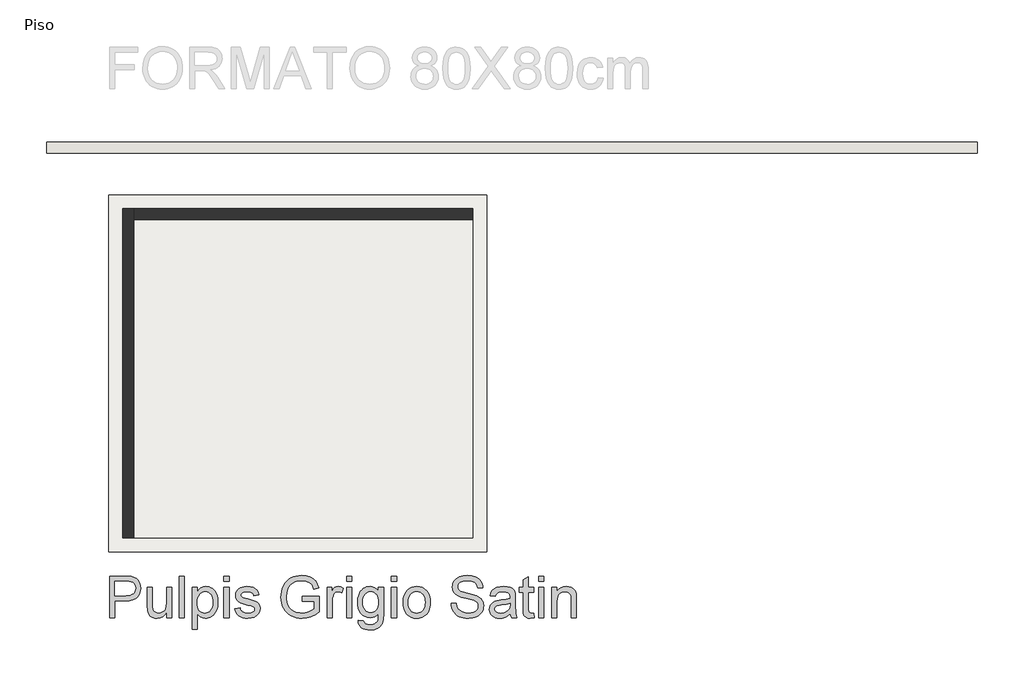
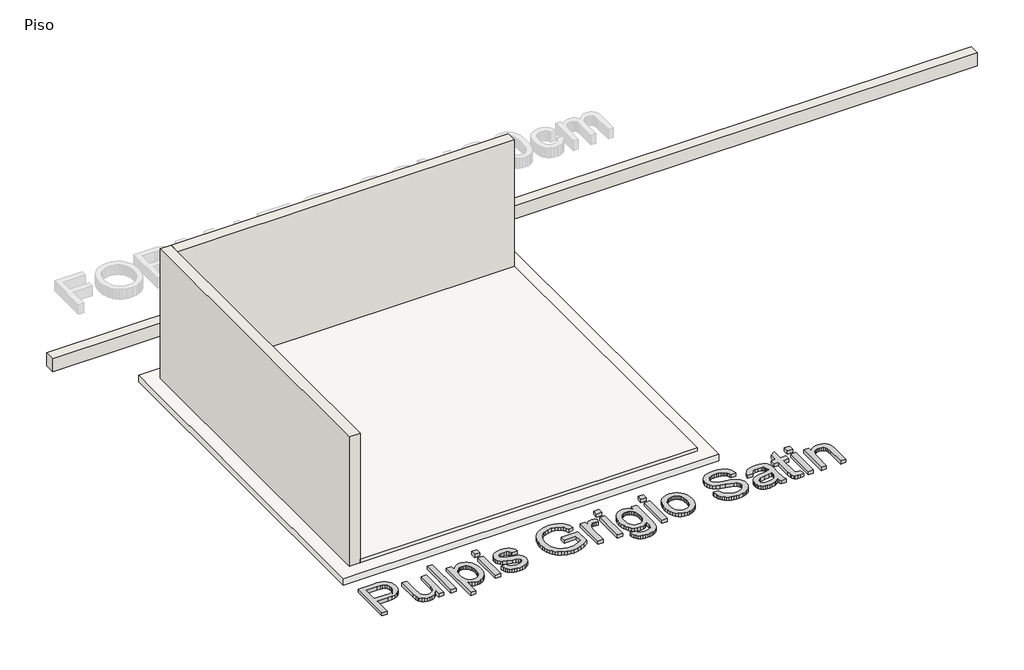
# One storey, part 1 of 2: 3 walls, 2 slabs, 1 proxy.
"""IFC4 building model written with IfcOpenShell, lengths in millimetres."""

from ifc_helpers import new_model, si_unit, frame, origin, origin_with_axes, place, context, project, spatial, polyline, outline, extrude, faceted_brep, element, save

model = new_model("IFC4")

# Units and contexts
model_context = context("Model", 3, world=origin())
ifc_project = project(units=[si_unit("LENGTHUNIT", "METRE", prefix="MILLI")], contexts=[model_context])

# Site, building, storey
site = spatial("IfcSite", under=ifc_project)
building = spatial("IfcBuilding", under=site)
storey = spatial("IfcBuildingStorey", under=building, Name="Piso", Elevation=0.0)

# Proxy
placement = place(None, origin())
element("IfcBuildingElementProxy", 1, Name="600mm Arial", ObjectType="600mm Arial", at=placement, inside=storey, context=model_context, shape_type="SweptSolid", body=[
    extrude(outline(polyline([(92600.1122486, -4974.1967147), (92600.1122486, -4371.4588538), (92823.4901961, -4371.4588538), (92875.5087102, -4372.8935936), (92913.5477085, -4377.197813), (92953.7020283, -4387.9215731), (92986.7562256, -4405.3775738), (93013.3724879, -4430.3567613), (93034.213003, -4463.6500818), (93047.677484, -4502.9214848), (93052.1656443, -4545.8349195), (93049.1352164, -4582.8346512), (93040.0439326, -4616.8729328), (93024.8917929, -4647.9497644), (93003.6787974, -4676.0651458), (92974.5563389, -4699.3704702), (92935.6758105, -4716.0171305), (92887.0372123, -4726.0051267), (92828.640544, -4729.3344587), (92675.4544813, -4729.3344587), (92675.4544813, -4974.1967147), (92600.1122486, -4974.1967147)]), holes=[polyline([(92675.4544813, -4653.9922261), (92833.055128, -4653.9922261), (92869.2915045, -4652.2631808), (92899.8624983, -4647.0760446), (92924.7681094, -4638.4308177), (92944.0083377, -4626.3275001), (92958.3649326, -4611.0879884), (92968.6196432, -4593.0341795), (92974.7724696, -4572.1660734), (92976.8234117, -4548.4836699), (92971.9857635, -4514.6385264), (92957.4728188, -4486.0908835), (92935.0871994, -4464.606575), (92906.631527, -4451.9514344), (92877.5688494, -4448.0886734), (92831.2892944, -4446.8010864), (92675.4544813, -4446.8010864), (92675.4544813, -4653.9922261)])]), origin_with_axes(), (0.0, 0.0, 1.0), 50.0),
    extrude(outline(polyline([(93428.8768074, -4974.1967147), (93428.8768074, -4898.1187181), (93401.6167515, -4935.52312), (93369.8685354, -4962.2405499), (93333.6321588, -4978.2710078), (93292.907622, -4983.6144938), (93256.2113929, -4979.8620975), (93222.0535497, -4968.6049084), (93193.3955423, -4951.6823366), (93173.1988207, -4930.9337921), (93159.605581, -4905.7338754), (93150.758019, -4875.4571872), (93146.3434351, -4805.4124553), (93146.3434351, -4531.5610981), (93221.6856677, -4531.5610981), (93221.6856677, -4769.948631), (93222.8261019, -4817.6261376), (93226.2474044, -4846.7623916), (93237.228682, -4872.3853726), (93256.045846, -4891.8647242), (93281.4480978, -4904.1703769), (93312.1846385, -4908.2722612), (93344.6870128, -4904.0784064), (93375.0924597, -4891.4968422), (93400.1636177, -4871.6863968), (93416.6631251, -4845.8058984), (93425.8233868, -4810.3604682), (93428.8768074, -4761.8552271), (93428.8768074, -4531.5610981), (93504.21904, -4531.5610981), (93504.21904, -4974.1967147), (93428.8768074, -4974.1967147)])), origin_with_axes(), (0.0, 0.0, 1.0), 50.0),
    extrude(outline(polyline([(93607.8146098, -4974.1967147), (93607.8146098, -4371.4588538), (93683.1568424, -4371.4588538), (93683.1568424, -4974.1967147), (93607.8146098, -4974.1967147)])), origin_with_axes(), (0.0, 0.0, 1.0), 50.0),
    extrude(outline(polyline([(93796.1701914, -5143.7167381), (93796.1701914, -4531.5610981), (93871.512424, -4531.5610981), (93871.512424, -4605.4318028), (93896.0869413, -4568.9930911), (93923.6045145, -4542.96544), (93955.6838245, -4527.3488493), (93993.943552, -4522.1433191), (94020.2195235, -4523.9643349), (94044.8952083, -4529.4273826), (94067.9706064, -4538.5324619), (94089.4457179, -4551.2795731), (94108.8514932, -4567.3376222), (94125.7188826, -4586.3755154), (94140.0478864, -4608.3932528), (94151.8385043, -4633.3908344), (94167.6206419, -4688.9042275), (94172.8813544, -4749.4943921), (94166.9400602, -4813.9289235), (94159.5134424, -4843.5940079), (94149.1161775, -4871.5576381), (94135.8908198, -4897.0886485), (94119.9799235, -4919.4558738), (94101.3834887, -4938.659314), (94080.1015152, -4954.698969), (94057.1778684, -4967.3495111), (94033.6564133, -4976.3856126), (94009.53715, -4981.8072735), (93984.8200785, -4983.6144938), (93950.1839886, -4978.7768456), (93919.2635069, -4964.2639009), (93892.7943974, -4942.356528), (93871.512424, -4915.3355955), (93871.512424, -5143.7167381), (93796.1701914, -5143.7167381)]), holes=[polyline([(93871.512424, -4756.4105736), (93873.5495705, -4792.7205265), (93879.6610102, -4823.9537079), (93889.8467429, -4850.1101178), (93904.1067687, -4871.1897561), (93921.2730623, -4887.4133521), (93940.1775984, -4899.0016349), (93960.8203768, -4905.9546046), (93983.2013977, -4908.2722612), (94005.9043153, -4905.8718312), (94026.9241728, -4898.6705411), (94046.2609702, -4886.668391), (94063.9147075, -4869.8653809), (94078.6253887, -4848.0223874), (94089.1330182, -4820.9002873), (94095.4375959, -4788.4990806), (94097.5391218, -4750.8187673), (94095.4881797, -4714.821514), (94089.3353533, -4683.6435149), (94079.0806427, -4657.28477), (94064.7240478, -4635.7452792), (94047.5163675, -4619.0066484), (94028.7084005, -4607.0504835), (94008.3001468, -4599.8767846), (93986.2916065, -4597.4855517), (93964.352044, -4600.028536), (93943.7092655, -4607.6574888), (93924.3632711, -4620.3724103), (93906.3140607, -4638.1733003), (93891.0883446, -4660.8210357), (93880.2128332, -4688.076493), (93873.6875263, -4719.9396723), (93871.512424, -4756.4105736)])]), origin_with_axes(), (0.0, 0.0, 1.0), 50.0),
    extrude(outline(polyline([(94257.6413661, -4446.8010864), (94257.6413661, -4371.4588538), (94332.9835987, -4371.4588538), (94332.9835987, -4446.8010864), (94257.6413661, -4446.8010864)])), origin_with_axes(), (0.0, 0.0, 1.0), 50.0),
    extrude(outline(polyline([(94257.6413661, -4974.1967147), (94257.6413661, -4531.5610981), (94332.9835987, -4531.5610981), (94332.9835987, -4974.1967147), (94257.6413661, -4974.1967147)])), origin_with_axes(), (0.0, 0.0, 1.0), 50.0),
    extrude(outline(polyline([(94417.7436104, -4842.3478077), (94493.085843, -4832.9300286), (94497.6383827, -4850.1101178), (94504.9684315, -4865.1564914), (94515.0759893, -4878.0691494), (94527.9610562, -4888.8480918), (94543.6604203, -4897.3461659), (94562.2108699, -4903.4162189), (94607.8650255, -4908.2722612), (94652.9673581, -4903.8208891), (94670.4969352, -4898.2566739), (94684.6787861, -4890.4667726), (94703.4407679, -4871.1161797), (94708.1312633, -4860.2820549), (94709.6947618, -4848.675378), (94708.1220663, -4838.5034408), (94703.4039797, -4829.4719378), (94684.5316333, -4814.8302344), (94656.3150843, -4805.2653025), (94606.9821087, -4793.3459259), (94538.2249638, -4773.4619041), (94493.5273014, -4756.48415), (94464.8141117, -4737.9612915), (94444.0103849, -4713.4419565), (94431.3736383, -4684.4896435), (94427.1613895, -4652.6678509), (94430.5459038, -4623.4764146), (94440.6994469, -4596.5290585), (94456.7023137, -4572.8926403), (94477.6347992, -4553.6340178), (94498.4385261, -4541.5123061), (94525.533035, -4531.3403689), (94556.8581869, -4524.4425815), (94590.3538425, -4522.1433191), (94639.3925125, -4525.8405331), (94682.0300357, -4536.9321753), (94716.3166377, -4554.3329936), (94740.3025438, -4576.9577363), (94756.195046, -4606.4802665), (94766.2014362, -4644.5744471), (94690.8592036, -4653.9922261), (94681.3494541, -4630.2822315), (94662.53229, -4612.4215607), (94634.2237705, -4601.2195539), (94596.2399545, -4597.4855517), (94552.9770318, -4601.054007), (94524.1350834, -4611.7593731), (94507.9114874, -4627.2104169), (94502.5036221, -4645.0159054), (94504.7477023, -4656.6041883), (94511.4799428, -4666.9416724), (94522.9946492, -4676.1755104), (94539.5861272, -4683.5699385), (94604.4805112, -4699.6095935), (94715.0658389, -4735.0734179), (94744.2756693, -4752.0327778), (94766.4221654, -4775.2461317), (94780.3832872, -4804.787056), (94785.0369944, -4840.7291269), (94779.5739468, -4877.8852084), (94763.1848039, -4912.8339979), (94736.4949651, -4942.8347746), (94700.1298299, -4965.1468176), (94656.2047197, -4978.9975748), (94606.8349559, -4983.6144938), (94566.285163, -4981.3888077), (94530.8673239, -4974.7117495), (94500.5814387, -4963.5833192), (94475.4275073, -4948.0035167), (94454.8812978, -4928.0459184), (94438.4185785, -4903.7841009), (94426.0393494, -4875.2180639), (94417.7436104, -4842.3478077)])), origin_with_axes(), (0.0, 0.0, 1.0), 50.0),
    extrude(outline(polyline([(95397.1926344, -4738.7522378), (95397.1926344, -4663.4100052), (95642.0548904, -4663.4100052), (95642.0548904, -4888.7009391), (95582.5499776, -4930.0876635), (95521.1688667, -4959.7757405), (95458.0587105, -4977.6548055), (95393.3666616, -4983.6144938), (95350.0899434, -4981.2462535), (95308.8457732, -4974.1415324), (95269.6341511, -4962.3003307), (95232.4550769, -4945.7226483), (95198.5087658, -4924.6568056), (95168.9954328, -4899.3511228), (95143.9150777, -4869.8056001), (95123.2677008, -4836.0202373), (95107.1406738, -4799.075688), (95095.6213688, -4760.0526053), (95088.7097858, -4718.9509894), (95086.4059248, -4675.7708402), (95088.7005888, -4632.5860925), (95095.5845806, -4590.8820699), (95107.0579004, -4550.6587722), (95123.120548, -4511.9161996), (95143.4874149, -4476.3558062), (95167.8733927, -4445.6790464), (95196.2784812, -4419.88592), (95228.7026806, -4398.9764271), (95264.4424164, -4382.8172104), (95302.7941144, -4371.2749128), (95343.7577746, -4364.3495343), (95387.3333969, -4362.0410748), (95449.3950895, -4367.3937578), (95505.2027882, -4383.4518069), (95530.1221948, -4395.2056366), (95552.199713, -4409.0563937), (95571.4353429, -4425.0040782), (95587.8290843, -4443.0486901), (95614.1878292, -4487.0657708), (95633.3728753, -4542.7447108), (95563.9167546, -4562.3160329), (95548.4105285, -4522.6031716), (95529.5565762, -4492.639183), (95504.614177, -4470.0512285), (95470.8426098, -4452.4664692), (95430.5779254, -4441.1540978), (95386.1561745, -4437.3833074), (95334.1560545, -4441.4484034), (95289.6975154, -4453.6436916), (95252.9461041, -4472.4424615), (95224.0673674, -4496.318003), (95201.9024772, -4524.0379113), (95185.2926051, -4554.3697818), (95167.6342694, -4611.2443383), (95161.7481575, -4672.6806315), (95163.5185896, -4710.301164), (95168.8298859, -4744.7303202), (95177.6820464, -4775.9681002), (95190.0750711, -4804.0145038), (95205.8480116, -4828.763765), (95224.8399196, -4850.1101178), (95247.0507951, -4868.0535621), (95272.480638, -4882.5940979), (95299.9384304, -4893.8282944), (95328.2331544, -4901.8527204), (95357.3648099, -4906.667376), (95387.3333969, -4908.2722612), (95439.5174579, -4903.434613), (95490.4139319, -4888.9216682), (95534.6149537, -4868.9272818), (95566.7126577, -4847.6453084), (95566.7126577, -4738.7522378), (95397.1926344, -4738.7522378)])), origin_with_axes(), (0.0, 0.0, 1.0), 50.0),
    extrude(outline(polyline([(95755.0682393, -4974.1967147), (95755.0682393, -4531.5610981), (95820.9926928, -4531.5610981), (95820.9926928, -4597.0440933), (95845.3464809, -4559.0786714), (95867.7872826, -4536.7114461), (95890.3016607, -4525.7853508), (95914.876178, -4522.1433191), (95952.4001415, -4527.9558546), (95990.5127162, -4545.3934612), (95965.3495877, -4612.9365955), (95938.8620841, -4601.3483126), (95912.3745804, -4597.4855517), (95889.8785964, -4601.2011598), (95869.7738454, -4612.3479843), (95853.5318553, -4630.0798964), (95842.6241541, -4653.5507677), (95833.4638925, -4695.636468), (95830.4104719, -4741.548141), (95830.4104719, -4974.1967147), (95755.0682393, -4974.1967147)])), origin_with_axes(), (0.0, 0.0, 1.0), 50.0),
    extrude(outline(polyline([(96037.6016116, -4446.8010864), (96037.6016116, -4371.4588538), (96112.9438442, -4371.4588538), (96112.9438442, -4446.8010864), (96037.6016116, -4446.8010864)])), origin_with_axes(), (0.0, 0.0, 1.0), 50.0),
    extrude(outline(polyline([(96037.6016116, -4974.1967147), (96037.6016116, -4531.5610981), (96112.9438442, -4531.5610981), (96112.9438442, -4974.1967147), (96037.6016116, -4974.1967147)])), origin_with_axes(), (0.0, 0.0, 1.0), 50.0),
    extrude(outline(polyline([(96207.121635, -5011.867831), (96282.4638676, -5021.2856101), (96290.7780007, -5044.8300578), (96306.891232, -5061.0168656), (96338.5658718, -5073.5984298), (96380.0261727, -5077.7922846), (96424.2455885, -5073.0466068), (96442.1062594, -5067.1145097), (96457.1342389, -5058.8095736), (96479.9429226, -5036.0008899), (96493.9224384, -5005.5402607), (96498.0059285, -4973.1298569), (96499.0727863, -4917.6900403), (96474.0016284, -4942.4117103), (96446.0242026, -4960.0700461), (96415.1405091, -4970.6650476), (96381.3505479, -4974.1967147), (96340.0419983, -4970.0856334), (96303.6722646, -4957.7523895), (96272.2413466, -4937.1969831), (96245.7492444, -4908.419414), (96224.7293869, -4873.8936887), (96209.715203, -4836.0938137), (96200.7066927, -4795.019789), (96197.7038559, -4750.6716145), (96203.0933271, -4689.8423266), (96219.2617408, -4633.9058692), (96231.2454968, -4608.6829599), (96245.6388798, -4586.5042741), (96262.44189, -4567.3698118), (96281.6545272, -4551.2795731), (96302.9686903, -4538.5324619), (96326.0762781, -4529.4273826), (96350.9772906, -4523.9643349), (96377.6717279, -4522.1433191), (96412.905626, -4526.2635974), (96444.8837684, -4538.6244324), (96473.6061552, -4559.2258242), (96499.0727863, -4588.0677726), (96499.0727863, -4531.5610981), (96574.4150189, -4531.5610981), (96574.4150189, -4913.7169147), (96569.264671, -5001.9534113), (96562.8267361, -5034.7730838), (96553.8136272, -5060.0603724), (96542.0092137, -5080.4548305), (96527.1973649, -5098.5960114), (96509.3780807, -5114.4839151), (96488.5513613, -5128.1185415), (96464.9287386, -5139.0630309), (96438.721745, -5146.8805233), (96409.9303804, -5151.5710187), (96378.5546447, -5153.1345172), (96341.642285, -5150.9318237), (96308.4547305, -5144.3237434), (96278.9919812, -5133.3102762), (96253.2540371, -5117.891422), (96232.4641059, -5098.0487869), (96217.8453951, -5073.7639767), (96209.3979048, -5045.0369914), (96207.121635, -5011.867831)]), holes=[polyline([(96273.0460885, -4745.5212665), (96275.0556439, -4782.7739171), (96281.0843101, -4814.6278993), (96291.1320871, -4841.0832133), (96305.1989749, -4862.139859), (96322.3008891, -4878.2025066), (96341.4537455, -4889.6758263), (96362.657544, -4896.5598182), (96385.9122846, -4898.8544821), (96408.937099, -4896.5736137), (96430.0397299, -4889.7310086), (96449.2201775, -4878.3266668), (96466.4784416, -4862.3605882), (96480.7384674, -4841.5108761), (96490.9242001, -4815.4556338), (96497.0356398, -4784.1948613), (96499.0727863, -4747.7285585), (96496.975859, -4712.7843675), (96490.6850768, -4682.4111103), (96480.20044, -4656.6087868), (96465.5219484, -4635.3773972), (96447.8912037, -4618.7997148), (96428.5498078, -4606.958513), (96407.4977607, -4599.853792), (96384.7350622, -4597.4855517), (96362.3540413, -4599.8170038), (96341.7112629, -4606.8113602), (96322.8067269, -4618.468621), (96305.6404333, -4634.788786), (96291.3804074, -4655.6982789), (96281.1946747, -4681.1235233), (96275.083235, -4711.0645192), (96273.0460885, -4745.5212665)])]), origin_with_axes(), (0.0, 0.0, 1.0), 50.0),
    extrude(outline(polyline([(96687.4283679, -4446.8010864), (96687.4283679, -4371.4588538), (96762.7706005, -4371.4588538), (96762.7706005, -4446.8010864), (96687.4283679, -4446.8010864)])), origin_with_axes(), (0.0, 0.0, 1.0), 50.0),
    extrude(outline(polyline([(96687.4283679, -4974.1967147), (96687.4283679, -4531.5610981), (96762.7706005, -4531.5610981), (96762.7706005, -4974.1967147), (96687.4283679, -4974.1967147)])), origin_with_axes(), (0.0, 0.0, 1.0), 50.0),
    extrude(outline(polyline([(96856.9483912, -4752.8789064), (96861.0226843, -4695.5536945), (96873.2455636, -4646.1563396), (96893.6170291, -4604.6868417), (96922.1370808, -4571.1452008), (96950.8502705, -4549.7068775), (96982.5433044, -4534.3937895), (97017.2161824, -4525.2059367), (97054.8689046, -4522.1433191), (97096.4349716, -4525.8727228), (97134.0187159, -4537.060934), (97167.6201376, -4555.7079526), (97197.2392368, -4581.8137787), (97221.4136824, -4614.4954954), (97238.6811435, -4652.870186), (97249.0416202, -4696.9378505), (97252.4951124, -4746.6984889), (97250.9684022, -4787.0275526), (97246.3882713, -4822.8132737), (97238.7547199, -4854.0556522), (97228.067748, -4880.754688), (97214.4607127, -4903.8162905), (97198.0669713, -4924.1463693), (97178.8865237, -4941.7449242), (97156.9193701, -4956.6119554), (97133.020836, -4968.4255659), (97108.046247, -4976.8638592), (97081.9956033, -4981.9268352), (97054.8689046, -4983.6144938), (97012.6958324, -4979.8988857), (96974.7626002, -4968.7520612), (96941.069208, -4950.1740204), (96911.6156557, -4924.1647634), (96887.6987275, -4891.1657484), (96870.6152074, -4851.6184339), (96860.3650953, -4805.5228199), (96856.9483912, -4752.8789064)]), holes=[polyline([(96932.2906238, -4752.7317536), (96934.4703247, -4789.2762313), (96941.0094271, -4820.9186814), (96951.9079312, -4847.659104), (96967.165837, -4869.4974989), (96985.7254836, -4886.4614574), (97006.5292105, -4898.5785706), (97029.5770175, -4905.8488386), (97054.8689046, -4908.2722612), (97080.0320331, -4905.835043), (97102.9878696, -4898.5233883), (97123.7364141, -4886.3372972), (97142.2776667, -4869.2767697), (97157.5355724, -4847.2222441), (97168.4340765, -4820.0541588), (97174.973179, -4787.7725137), (97177.1528798, -4750.3773089), (97174.9593834, -4714.9916595), (97168.3788942, -4684.1769438), (97157.4114123, -4657.933162), (97142.0569375, -4636.260314), (97123.4467071, -4619.2963555), (97102.7119581, -4607.1792422), (97079.8526906, -4599.9089743), (97054.8689046, -4597.4855517), (97029.5770175, -4599.8997773), (97006.5292105, -4607.142454), (96985.7254836, -4619.213582), (96967.165837, -4636.1131612), (96951.9079312, -4657.8871768), (96941.0094271, -4684.581614), (96934.4703247, -4716.196473), (96932.2906238, -4752.7317536)])]), origin_with_axes(), (0.0, 0.0, 1.0), 50.0),
    extrude(outline(polyline([(97553.8640429, -4767.005575), (97629.2062755, -4767.005575), (97637.8515024, -4808.8153638), (97653.4864872, -4842.4213841), (97677.8770635, -4869.0928287), (97712.7890648, -4890.0988906), (97755.4633763, -4903.7289186), (97803.1408828, -4908.2722612), (97845.1162185, -4904.8325645), (97881.8676298, -4894.5134746), (97911.6476773, -4878.179514), (97932.7089215, -4856.6952055), (97945.2353035, -4832.0287177), (97949.4107641, -4806.1482193), (97946.2837672, -4780.9299086), (97936.9027763, -4759.1329004), (97917.8464889, -4740.5364655), (97885.6936025, -4724.9198748), (97775.9911916, -4696.1515028), (97703.978291, -4677.1136095), (97657.9010711, -4658.9954213), (97620.3955017, -4633.6483518), (97593.8160276, -4602.9302052), (97577.9787077, -4567.5031691), (97572.699601, -4528.029431), (97574.3320774, -4505.5932278), (97579.2295065, -4483.9019857), (97587.3918882, -4462.9557046), (97598.8192227, -4442.7543845), (97613.3827512, -4424.1211614), (97630.953715, -4407.8791714), (97651.5321141, -4394.0284142), (97675.1179485, -4382.5688901), (97728.129744, -4367.1730286), (97786.8069222, -4362.0410748), (97850.376931, -4367.4121519), (97906.0006887, -4383.5253833), (97930.3360827, -4395.5275334), (97951.6916325, -4410.0496751), (97970.0673381, -4427.0918086), (97985.4631996, -4446.6539336), (97997.7596553, -4468.1658333), (98006.8371436, -4491.0572905), (98012.6956643, -4515.3283051), (98015.3352176, -4540.9788772), (97939.992985, -4540.9788772), (97934.9530017, -4516.9377888), (97926.160622, -4496.0236974), (97913.615846, -4478.2366029), (97897.3186736, -4463.5765054), (97876.9656022, -4452.1169813), (97852.2531292, -4443.9316069), (97823.1812545, -4439.0203822), (97789.7499782, -4437.3833074), (97755.2518441, -4439.0019881), (97725.7752992, -4443.8580305), (97701.3203436, -4451.9514344), (97681.8869772, -4463.2821998), (97667.0797269, -4476.9030307), (97656.5031195, -4491.8666309), (97650.1571551, -4508.1730003), (97648.0418337, -4525.822139), (97649.5409528, -4541.0064684), (97654.0383102, -4554.774452), (97661.5339058, -4567.12609), (97672.0277397, -4578.0613823), (97688.5456413, -4588.4172605), (97714.5548984, -4598.8835033), (97795.0474789, -4620.1470826), (97878.1152334, -4640.3438041), (97928.367914, -4657.9653517), (97971.3181369, -4685.2989839), (97987.9234105, -4701.3662301), (98001.2821254, -4719.0337629), (98011.5506316, -4738.2096119), (98018.8852789, -4758.8018066), (98024.7529967, -4804.235233), (98023.0653381, -4827.8026733), (98018.0023621, -4850.6803349), (98009.5640688, -4872.8682177), (97997.7504583, -4894.3663218), (97982.768464, -4914.3423141), (97964.8250197, -4931.9638617), (97943.9201253, -4947.2309645), (97920.0537809, -4960.1436225), (97893.9203637, -4970.4121287), (97866.2142509, -4977.746776), (97806.0839388, -4983.6144938), (97767.5437013, -4982.0326012), (97732.2684165, -4977.2869235), (97700.2580844, -4969.3774606), (97671.512705, -4958.3042125), (97645.8575343, -4944.0487852), (97623.1178285, -4926.5927846), (97603.2935875, -4905.9362105), (97586.3848113, -4882.0790631), (97572.7639804, -4855.7938946), (97562.8035754, -4827.853257), (97556.5035962, -4798.2571505), (97553.8640429, -4767.005575)])), origin_with_axes(), (0.0, 0.0, 1.0), 50.0),
    extrude(outline(polyline([(98410.8819389, -4917.6900403), (98374.8846856, -4948.5553397), (98337.8205746, -4968.7520612), (98298.8434772, -4979.8988857), (98257.1072649, -4983.6144938), (98223.5610254, -4981.3796107), (98194.1442614, -4974.6749613), (98168.8569728, -4963.5005457), (98147.6991595, -4947.8563639), (98130.9927184, -4928.7356972), (98119.0595462, -4907.131827), (98111.8996429, -4883.0447534), (98109.5130084, -4856.4744763), (98113.118252, -4825.2412949), (98123.9339826, -4796.8775931), (98140.6174311, -4772.5973814), (98161.8258281, -4753.6146704), (98186.7498333, -4739.2672726), (98214.5801062, -4728.8930003), (98279.7687958, -4717.5622349), (98356.8032856, -4705.6428583), (98410.4404805, -4691.6633424), (98410.8819389, -4674.8879235), (98405.6948027, -4641.2635091), (98399.2108826, -4628.8107036), (98390.1333943, -4619.2641658), (98374.4432272, -4609.7360221), (98355.3317576, -4602.9302052), (98306.8449106, -4597.4855517), (98261.9633072, -4601.1091893), (98230.6197612, -4611.9801023), (98209.2458173, -4632.0848533), (98194.2730201, -4663.4100052), (98118.9307875, -4653.9922261), (98132.0089924, -4612.7894427), (98151.5251323, -4580.4158271), (98179.3002229, -4555.6573688), (98217.1552802, -4537.3000573), (98263.4532293, -4525.9325036), (98316.5569953, -4522.1433191), (98367.4902575, -4525.4910452), (98407.8653065, -4535.5342237), (98438.3075416, -4550.6357796), (98459.4423622, -4569.158638), (98473.4586662, -4592.0592922), (98482.5453515, -4620.2942354), (98486.2241715, -4686.2186889), (98486.2241715, -4779.9550213), (98490.0501442, -4910.8474352), (98495.7155269, -4943.2026566), (98505.0597296, -4974.1967147), (98429.717497, -4974.1967147), (98417.6509676, -4948.0035167), (98410.8819389, -4917.6900403)]), holes=[polyline([(98410.8819389, -4767.005575), (98360.2613763, -4779.5503511), (98289.3337277, -4790.1085643), (98224.5129201, -4802.3222466), (98207.6455306, -4810.6731679), (98195.1559369, -4822.1878743), (98187.430415, -4835.9834491), (98184.855241, -4851.1769755), (98190.4654414, -4873.580989), (98207.2960427, -4891.9383006), (98234.9791629, -4904.188771), (98273.1469199, -4908.2722612), (98313.6139393, -4903.7657068), (98349.3720693, -4890.2460434), (98378.3611705, -4870.3252334), (98398.5211038, -4846.6152388), (98407.4606363, -4822.1878743), (98410.4404805, -4788.3427308), (98410.8819389, -4767.005575)])]), origin_with_axes(), (0.0, 0.0, 1.0), 50.0),
    extrude(outline(polyline([(98749.9219856, -4911.36247), (98759.3397647, -4976.4040067), (98702.980243, -4983.6144938), (98666.8174429, -4980.4874968), (98639.8516927, -4971.106506), (98620.7954053, -4956.6487436), (98608.3609939, -4938.291432), (98601.5183888, -4906.763945), (98599.2375204, -4852.7956563), (98599.2375204, -4606.9033307), (98542.7308459, -4606.9033307), (98542.7308459, -4531.5610981), (98599.2375204, -4531.5610981), (98599.2375204, -4423.9924027), (98674.579753, -4379.6994105), (98674.579753, -4531.5610981), (98749.9219856, -4531.5610981), (98749.9219856, -4606.9033307), (98674.579753, -4606.9033307), (98674.579753, -4850.5883644), (98678.5528786, -4889.436703), (98691.4287484, -4903.1954897), (98702.2996613, -4907.0030683), (98717.1069116, -4908.2722612), (98749.9219856, -4911.36247)])), origin_with_axes(), (0.0, 0.0, 1.0), 50.0),
    extrude(outline(polyline([(98825.2642182, -4446.8010864), (98825.2642182, -4371.4588538), (98900.6064508, -4371.4588538), (98900.6064508, -4446.8010864), (98825.2642182, -4446.8010864)])), origin_with_axes(), (0.0, 0.0, 1.0), 50.0),
    extrude(outline(polyline([(98825.2642182, -4974.1967147), (98825.2642182, -4531.5610981), (98900.6064508, -4531.5610981), (98900.6064508, -4974.1967147), (98825.2642182, -4974.1967147)])), origin_with_axes(), (0.0, 0.0, 1.0), 50.0),
    extrude(outline(polyline([(99013.6197998, -4974.1967147), (99013.6197998, -4531.5610981), (99088.9620324, -4531.5610981), (99088.9620324, -4593.3652733), (99115.1368363, -4562.2056683), (99146.5723528, -4539.9488076), (99183.2685818, -4526.5946912), (99225.2255234, -4522.1433191), (99262.3632108, -4525.7301685), (99296.3739012, -4536.4907169), (99324.7376031, -4553.0821949), (99344.9343246, -4574.1618332), (99358.6379289, -4599.6744495), (99367.5222791, -4629.5648616), (99371.4954047, -4702.4054967), (99371.4954047, -4974.1967147), (99296.1531721, -4974.1967147), (99296.1531721, -4712.5590398), (99293.9826683, -4673.6003365), (99287.471157, -4645.8988222), (99275.4598098, -4626.0515886), (99256.7897986, -4610.6557271), (99232.8590748, -4600.7780955), (99205.06559, -4597.4855517), (99182.1879285, -4599.3341587), (99160.9381447, -4604.8799798), (99141.3162388, -4614.1230149), (99123.3222107, -4627.0632641), (99108.2896327, -4645.1722553), (99097.552077, -4669.9215165), (99091.1095435, -4701.3110478), (99088.9620324, -4739.340849), (99088.9620324, -4974.1967147), (99013.6197998, -4974.1967147)])), origin_with_axes(), (0.0, 0.0, 1.0), 50.0),
])

# Slabs
element("IfcSlab", 2, ObjectType="5cm - Porcelanato Pulpis Grigio Satin  - Acetinado 80x80", at=placement, inside=storey, context=model_context, shape_type="SweptSolid", body=[
    extrude(outline(polyline([(97869.8024755, 801.9369165), (97869.8024755, -3818.6630835), (92949.2024755, -3818.6630835), (92949.2024755, 801.9369165), (97869.8024755, 801.9369165)])), origin_with_axes(), (0.0, 0.0, 1.0), 50.0),
])
element("IfcSlab", 3, ObjectType="CO02 - Concreto Estrutural Simples", at=placement, inside=storey, context=model_context, shape_type="SweptSolid", body=[
    extrude(outline(polyline([(98069.8024755, 1160.7369165), (98069.8024755, -4018.6630835), (92590.4024755, -4018.6630835), (92590.4024755, 1160.7369165), (98069.8024755, 1160.7369165)])), frame((0.0, 0.0, -100.0), z_axis=(0.0, 0.0, 1.0), x_axis=(1.0, 0.0, 0.0)), (0.0, 0.0, 1.0), 100.0),
])

# Walls
element("IfcWall", 4, ObjectType="CO01 - Bloco de Concreto 14cm / Pintura Branca Simples", at=placement, inside=storey, context=model_context, shape_type="SweptSolid", body=[
    extrude(outline(polyline([(105186.699165, 1765.7486968), (91686.699165, 1765.7486968), (91686.699165, 1924.5486968), (105186.699165, 1924.5486968), (105186.699165, 1765.7486968)])), origin_with_axes(), (0.0, 0.0, 1.0), 200.0),
])
element("IfcWall", 5, ObjectType="CO01 - Bloco de Concreto 14cm / Pintura Branca Simples", at=placement, inside=storey, context=model_context, shape_type="Brep", body=[
    faceted_brep([(92949.2024755, -3818.6630835, 0.0), (92949.2024755, 801.9369165, 0.0), (92949.2024755, 960.7369165, 0.0), (92949.2024755, 960.7369165, 2000.0), (92949.2024755, 801.9369165, 2000.0), (92949.2024755, -3818.6630835, 2000.0), (92790.4024755, -3818.6630835, 0.0), (92790.4024755, -3818.6630835, 2000.0), (92790.4024755, 960.7369165, 2000.0), (92790.4024755, 960.7369165, 0.0)], [[[0, 1, 2, 3, 4, 5]], [[6, 7, 8, 9]], [[2, 1, 0, 6, 9]], [[5, 4, 3, 8, 7]], [[0, 5, 7, 6]], [[3, 2, 9, 8]]]),
])
element("IfcWall", 6, ObjectType="CO01 - Bloco de Concreto 14cm / Pintura Branca Simples", at=placement, inside=storey, context=model_context, shape_type="SweptSolid", body=[
    extrude(outline(polyline([(97869.8024755, 801.9369165), (92949.2024755, 801.9369165), (92949.2024755, 960.7369165), (97869.8024755, 960.7369165), (97869.8024755, 801.9369165)])), origin_with_axes(), (0.0, 0.0, 1.0), 2000.0),
])

save(model, "model.ifc")
